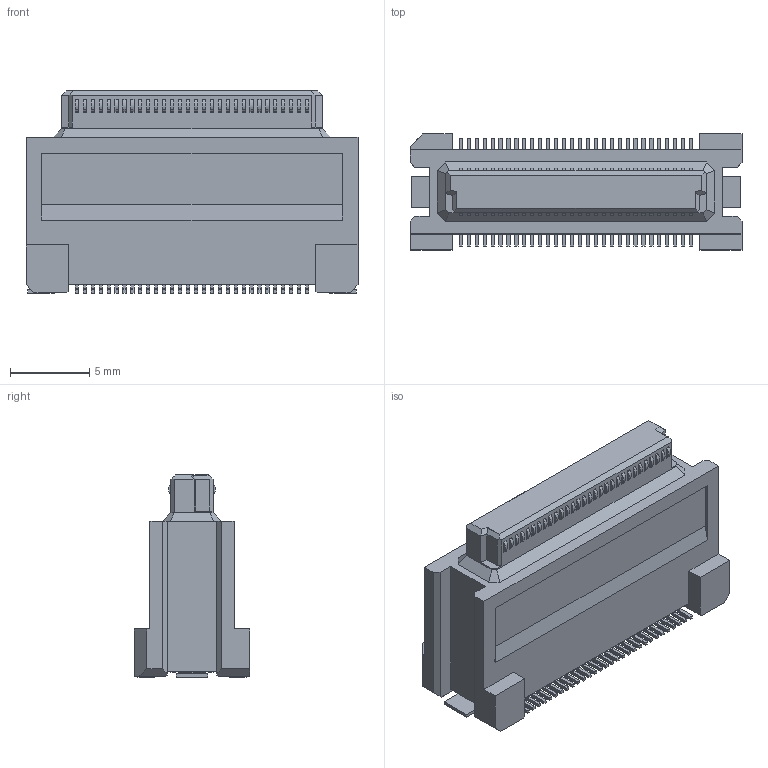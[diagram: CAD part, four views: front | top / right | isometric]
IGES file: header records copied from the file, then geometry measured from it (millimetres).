
Start section: Elysium IGES Interface
Global section: file name: C:\Users\1354\Desktop\DY10-060FS-4.igs; native system: Creo Elements/Direct Modeling 19.0F  14-Feb-2017; preprocessor: Creo Element/Direct IGES_3D V2.2; author: Unknown; organization: Unknown; date: 20171127.164219; units: millimetre
Bounding box: 20.9 x 7.3 x 12.73 mm (x, y, z)
Volume: 1049.2 mm3; surface area: 1019.8 mm2
Topology: 1 solids, 1 shells, 930 faces, 2553 edges, 1690 vertices
Faces by surface type: bspline 930
